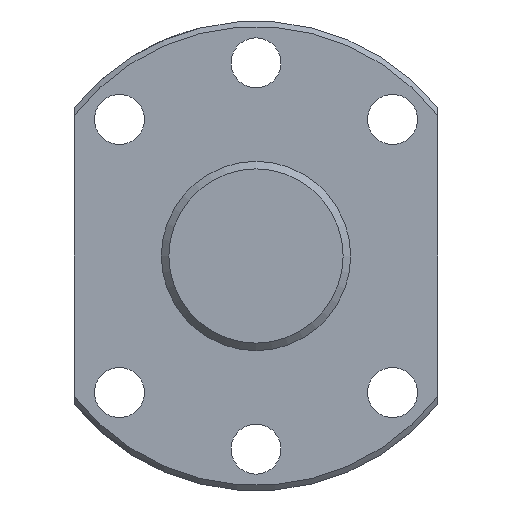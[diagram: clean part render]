
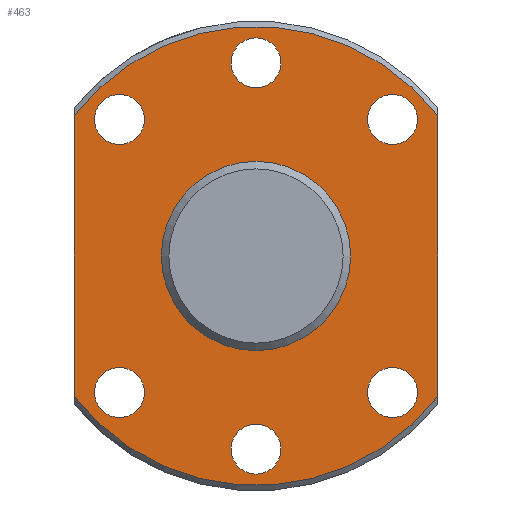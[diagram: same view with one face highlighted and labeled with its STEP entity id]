
A CAD part, left-side view. The second image highlights one B-rep face of the part: STEP entity #463.
In plain terms, the highlighted planar face has unit normal (-1, 0, 0).
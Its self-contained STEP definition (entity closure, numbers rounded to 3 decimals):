
#22=LINE('',#811,#30);
#23=LINE('',#812,#31);
#30=VECTOR('',#633,1000.);
#31=VECTOR('',#634,1000.);
#106=ORIENTED_EDGE('',*,*,#204,.F.);
#107=ORIENTED_EDGE('',*,*,#205,.F.);
#108=ORIENTED_EDGE('',*,*,#191,.F.);
#109=ORIENTED_EDGE('',*,*,#206,.F.);
#110=ORIENTED_EDGE('',*,*,#207,.T.);
#111=ORIENTED_EDGE('',*,*,#208,.T.);
#112=ORIENTED_EDGE('',*,*,#187,.F.);
#113=ORIENTED_EDGE('',*,*,#209,.T.);
#114=ORIENTED_EDGE('',*,*,#210,.T.);
#115=ORIENTED_EDGE('',*,*,#211,.T.);
#116=ORIENTED_EDGE('',*,*,#212,.T.);
#187=EDGE_CURVE('',#239,#239,#283,.F.);
#191=EDGE_CURVE('',#243,#244,#285,.T.);
#204=EDGE_CURVE('',#254,#255,#290,.T.);
#205=EDGE_CURVE('',#244,#254,#22,.T.);
#206=EDGE_CURVE('',#255,#243,#23,.T.);
#207=EDGE_CURVE('',#256,#256,#291,.T.);
#208=EDGE_CURVE('',#257,#257,#292,.T.);
#209=EDGE_CURVE('',#258,#258,#293,.T.);
#210=EDGE_CURVE('',#259,#259,#294,.T.);
#211=EDGE_CURVE('',#260,#260,#295,.T.);
#212=EDGE_CURVE('',#261,#261,#296,.T.);
#239=VERTEX_POINT('',#740);
#243=VERTEX_POINT('',#761);
#244=VERTEX_POINT('',#763);
#254=VERTEX_POINT('',#809);
#255=VERTEX_POINT('',#810);
#256=VERTEX_POINT('',#814);
#257=VERTEX_POINT('',#816);
#258=VERTEX_POINT('',#818);
#259=VERTEX_POINT('',#820);
#260=VERTEX_POINT('',#822);
#261=VERTEX_POINT('',#824);
#283=CIRCLE('',#522,12.5);
#285=CIRCLE('',#525,30.3);
#290=CIRCLE('',#534,30.3);
#291=CIRCLE('',#535,3.3);
#292=CIRCLE('',#536,3.3);
#293=CIRCLE('',#537,3.3);
#294=CIRCLE('',#538,3.3);
#295=CIRCLE('',#539,3.3);
#296=CIRCLE('',#540,3.3);
#328=EDGE_LOOP('',(#106,#107,#108,#109));
#329=EDGE_LOOP('',(#110));
#330=EDGE_LOOP('',(#111));
#331=EDGE_LOOP('',(#112));
#332=EDGE_LOOP('',(#113));
#333=EDGE_LOOP('',(#114));
#334=EDGE_LOOP('',(#115));
#335=EDGE_LOOP('',(#116));
#394=FACE_BOUND('',#328,.T.);
#395=FACE_BOUND('',#329,.T.);
#396=FACE_BOUND('',#330,.T.);
#397=FACE_BOUND('',#331,.T.);
#398=FACE_BOUND('',#332,.T.);
#399=FACE_BOUND('',#333,.T.);
#400=FACE_BOUND('',#334,.T.);
#401=FACE_BOUND('',#335,.T.);
#446=PLANE('',#533);
#463=ADVANCED_FACE('',(#394,#395,#396,#397,#398,#399,#400,#401),#446,.F.);
#522=AXIS2_PLACEMENT_3D('',#739,#603,#604);
#525=AXIS2_PLACEMENT_3D('',#762,#609,#610);
#533=AXIS2_PLACEMENT_3D('',#807,#629,#630);
#534=AXIS2_PLACEMENT_3D('',#808,#631,#632);
#535=AXIS2_PLACEMENT_3D('',#813,#635,#636);
#536=AXIS2_PLACEMENT_3D('',#815,#637,#638);
#537=AXIS2_PLACEMENT_3D('',#817,#639,#640);
#538=AXIS2_PLACEMENT_3D('',#819,#641,#642);
#539=AXIS2_PLACEMENT_3D('',#821,#643,#644);
#540=AXIS2_PLACEMENT_3D('',#823,#645,#646);
#603=DIRECTION('',(1.,0.,0.));
#604=DIRECTION('',(0.,0.,-1.));
#609=DIRECTION('',(1.,0.,0.));
#610=DIRECTION('',(0.,0.,-1.));
#629=DIRECTION('',(1.,0.,0.));
#630=DIRECTION('',(0.,0.,-1.));
#631=DIRECTION('',(1.,0.,0.));
#632=DIRECTION('',(0.,0.,-1.));
#633=DIRECTION('',(0.,1.,0.));
#634=DIRECTION('',(0.,-1.,0.));
#635=DIRECTION('',(1.,0.,0.));
#636=DIRECTION('',(0.,0.,-1.));
#637=DIRECTION('',(1.,0.,0.));
#638=DIRECTION('',(0.,0.,-1.));
#639=DIRECTION('',(1.,0.,0.));
#640=DIRECTION('',(0.,0.,-1.));
#641=DIRECTION('',(1.,0.,0.));
#642=DIRECTION('',(0.,0.,-1.));
#643=DIRECTION('',(1.,0.,0.));
#644=DIRECTION('',(0.,0.,-1.));
#645=DIRECTION('',(1.,0.,0.));
#646=DIRECTION('',(0.,0.,-1.));
#739=CARTESIAN_POINT('',(0.,0.,0.));
#740=CARTESIAN_POINT('',(0.,0.,-12.5));
#761=CARTESIAN_POINT('',(0.,-18.496,24.));
#762=CARTESIAN_POINT('',(0.,0.,0.));
#763=CARTESIAN_POINT('',(0.,-18.496,-24.));
#807=CARTESIAN_POINT('',(0.,0.,0.));
#808=CARTESIAN_POINT('',(0.,0.,0.));
#809=CARTESIAN_POINT('',(0.,18.496,-24.));
#810=CARTESIAN_POINT('',(0.,18.496,24.));
#811=CARTESIAN_POINT('',(0.,-37.2,-24.));
#812=CARTESIAN_POINT('',(0.,37.2,24.));
#813=CARTESIAN_POINT('',(0.,25.5,0.));
#814=CARTESIAN_POINT('',(0.,25.5,-3.3));
#815=CARTESIAN_POINT('',(0.,-25.5,0.));
#816=CARTESIAN_POINT('',(0.,-25.5,-3.3));
#817=CARTESIAN_POINT('',(0.,-18.031,18.031));
#818=CARTESIAN_POINT('',(0.,-18.031,14.731));
#819=CARTESIAN_POINT('',(0.,18.031,-18.031));
#820=CARTESIAN_POINT('',(0.,18.031,-21.331));
#821=CARTESIAN_POINT('',(0.,-18.031,-18.031));
#822=CARTESIAN_POINT('',(0.,-18.031,-21.331));
#823=CARTESIAN_POINT('',(0.,18.031,18.031));
#824=CARTESIAN_POINT('',(0.,18.031,14.731));
